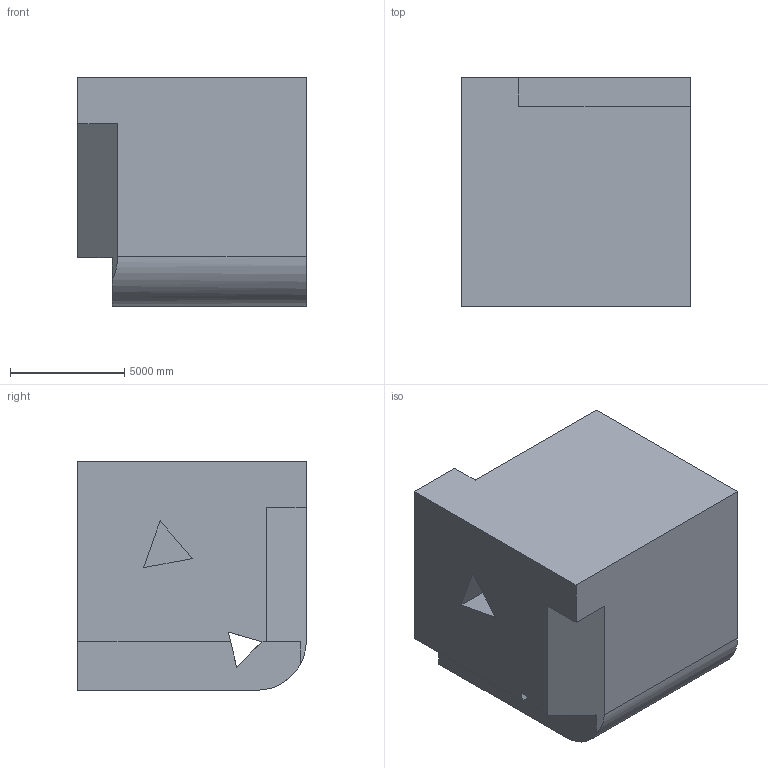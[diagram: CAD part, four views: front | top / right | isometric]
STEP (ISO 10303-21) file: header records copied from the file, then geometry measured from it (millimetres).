
FILE_DESCRIPTION (( 'STEP AP203' ), '1' );
FILE_NAME ('748.STEP', '2022-07-29T12:55:52', ( 'user' ), ( '' ), 'SwSTEP 2.0', 'SolidWorks 2021', '' );
FILE_SCHEMA (( 'CONFIG_CONTROL_DESIGN' ));
Length unit declared in the file: centimetre
Products named in the file (1): 748
Bounding box: 10000 x 10000 x 10000 mm (x, y, z)
Volume: 887793966256.1 mm3; surface area: 683489053.9 mm2
Topology: 1 solids, 1 shells, 34 faces, 96 edges, 64 vertices
Faces by surface type: plane 25, cylinder 9
Entity records: 1459 total; most frequent: CARTESIAN_POINT 506, ORIENTED_EDGE 192, DIRECTION 168, EDGE_CURVE 96, VECTOR 72, LINE 72, VERTEX_POINT 64, AXIS2_PLACEMENT_3D 48
